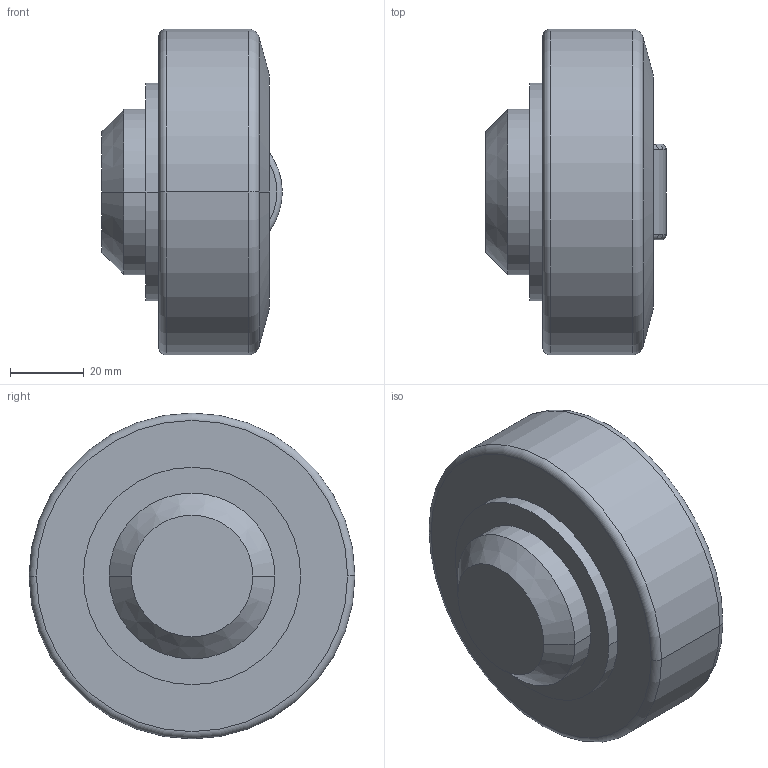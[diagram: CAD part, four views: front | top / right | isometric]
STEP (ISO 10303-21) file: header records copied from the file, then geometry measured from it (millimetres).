
FILE_DESCRIPTION (( 'STEP AP203' ), '1' );
FILE_NAME ('3D40058L.STEP', '2002-11-20T10:03:19', ( 'Francesc' ), ( 'propia' ), 'SwSTEP 2.0', 'SolidWorks 2001039', '' );
FILE_SCHEMA (( 'CONFIG_CONTROL_DESIGN' ));
Length unit declared in the file: millimetre
Products named in the file (1): 2
Bounding box: 49 x 88.4 x 88.4 mm (x, y, z)
Volume: 205848.8 mm3; surface area: 21253.7 mm2
Topology: 1 solids, 1 shells, 23 faces, 46 edges, 28 vertices
Faces by surface type: cylinder 7, torus 6, plane 6, cone 4
Entity records: 729 total; most frequent: CARTESIAN_POINT 154, DIRECTION 118, ORIENTED_EDGE 92, AXIS2_PLACEMENT_3D 52, EDGE_CURVE 46, VERTEX_POINT 28, CIRCLE 28, EDGE_LOOP 26
